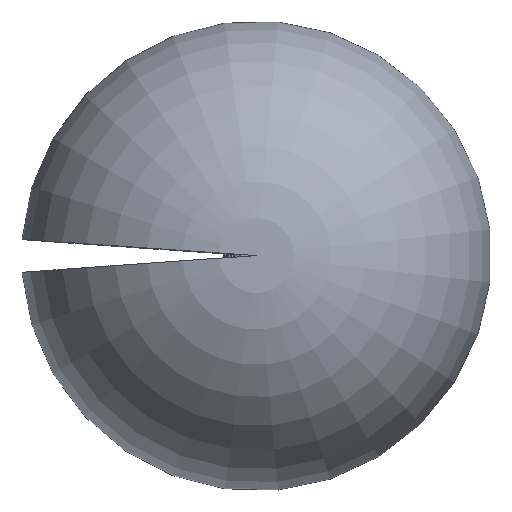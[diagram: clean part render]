
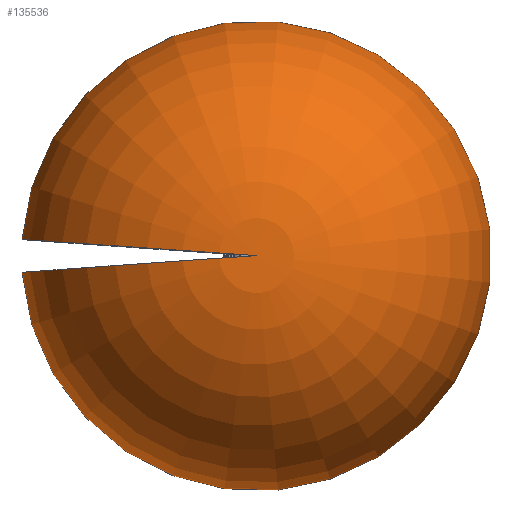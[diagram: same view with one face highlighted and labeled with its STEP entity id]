
A CAD part, top view. The second image highlights one B-rep face of the part: STEP entity #135536.
In plain terms, the highlighted toroidal (fillet/blend) face has major radius 100 mm and minor radius 1381.94 mm.
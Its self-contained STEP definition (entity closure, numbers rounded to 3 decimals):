
#6931 = ORIENTED_EDGE ( 'NONE', *, *, #40044, .T. ) ;
#9595 = CARTESIAN_POINT ( 'NONE',  ( 0., 158.475, 0. ) ) ;
#12103 = CARTESIAN_POINT ( 'NONE',  ( -1440.737, 158.475, 100.746 ) ) ;
#19448 = EDGE_CURVE ( 'NONE', #114339, #208308, #111523, .T. ) ;
#30990 = FACE_OUTER_BOUND ( 'NONE', #129171, .T. ) ;
#40044 = EDGE_CURVE ( 'NONE', #114339, #209659, #83747, .T. ) ;
#43369 = DIRECTION ( 'NONE',  ( 0., 0., -1. ) ) ;
#49416 = ORIENTED_EDGE ( 'NONE', *, *, #19448, .F. ) ;
#51227 = AXIS2_PLACEMENT_3D ( 'NONE', #139106, #123257, #140139 ) ;
#55758 = AXIS2_PLACEMENT_3D ( 'NONE', #128404, #193029, #62796 ) ;
#56248 = CARTESIAN_POINT ( 'NONE',  ( 0., 1857.318, 0. ) ) ;
#62796 = DIRECTION ( 'NONE',  ( 0., 0., -1. ) ) ;
#65533 = CARTESIAN_POINT ( 'NONE',  ( -99.756, 479., -6.976 ) ) ;
#80434 = DIRECTION ( 'NONE',  ( -0.998, 0., -0.07 ) ) ;
#81473 = DIRECTION ( 'NONE',  ( 0.07, 0., -0.998 ) ) ;
#83747 = CIRCLE ( 'NONE', #202051, 1381.94 ) ;
#88235 = CARTESIAN_POINT ( 'NONE',  ( -1440.737, 158.475, -100.746 ) ) ;
#110379 = ORIENTED_EDGE ( 'NONE', *, *, #190291, .F. ) ;
#111523 = CIRCLE ( 'NONE', #135216, 1444.256 ) ;
#114339 = VERTEX_POINT ( 'NONE', #88235 ) ;
#123257 = DIRECTION ( 'NONE',  ( -0.07, 0., -0.998 ) ) ;
#128404 = CARTESIAN_POINT ( 'NONE',  ( 0., 479., 0. ) ) ;
#129171 = EDGE_LOOP ( 'NONE', ( #6931, #110379, #49416 ) ) ;
#135216 = AXIS2_PLACEMENT_3D ( 'NONE', #9595, #173757, #43369 ) ;
#135536 = ADVANCED_FACE ( 'NONE', ( #30990 ), #204773, .T. ) ;
#139106 = CARTESIAN_POINT ( 'NONE',  ( -99.756, 479., 6.976 ) ) ;
#140139 = DIRECTION ( 'NONE',  ( -0.998, 0., 0.07 ) ) ;
#149413 = CIRCLE ( 'NONE', #51227, 1381.94 ) ;
#173757 = DIRECTION ( 'NONE',  ( 0., -1., 0. ) ) ;
#190291 = EDGE_CURVE ( 'NONE', #208308, #209659, #149413, .T. ) ;
#193029 = DIRECTION ( 'NONE',  ( 0., -1., 0. ) ) ;
#202051 = AXIS2_PLACEMENT_3D ( 'NONE', #65533, #81473, #80434 ) ;
#204773 = TOROIDAL_SURFACE ( 'NONE', #55758, 100., 1381.94 ) ;
#208308 = VERTEX_POINT ( 'NONE', #12103 ) ;
#209659 = VERTEX_POINT ( 'NONE', #56248 ) ;
